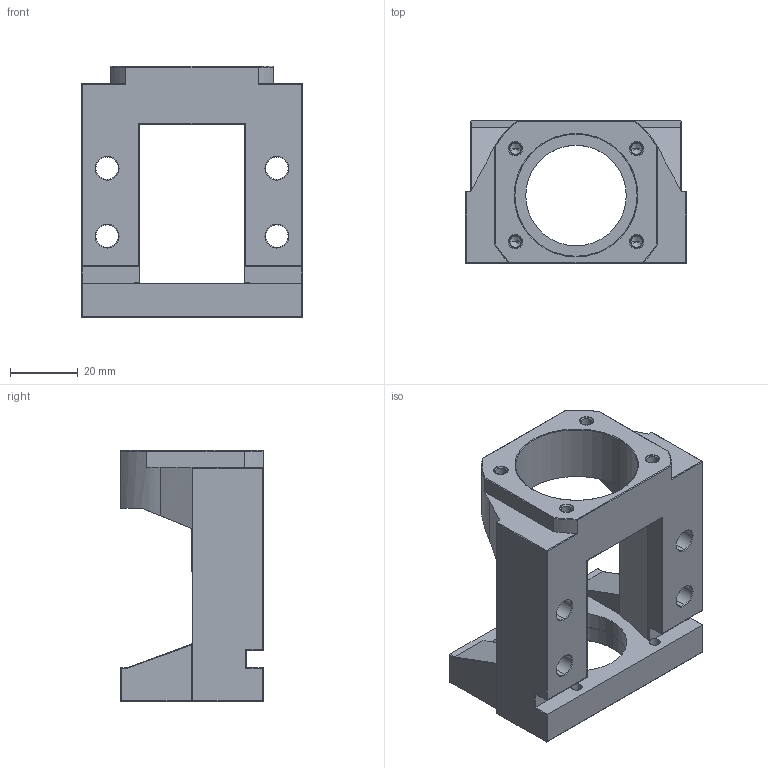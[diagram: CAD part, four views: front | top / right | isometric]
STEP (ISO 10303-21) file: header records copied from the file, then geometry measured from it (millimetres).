
FILE_DESCRIPTION (( 'STEP AP203' ), '1' );
FILE_NAME ('MBL10-B.STEP', '2017-12-28T06:04:41', ( '' ), ( '' ), 'SwSTEP 2.0', 'SolidWorks 2017', '' );
FILE_SCHEMA (( 'CONFIG_CONTROL_DESIGN' ));
Length unit declared in the file: millimetre
Products named in the file (1): MBL10-B
Bounding box: 65 x 42 x 74 mm (x, y, z)
Volume: 69747.7 mm3; surface area: 23204.7 mm2
Topology: 1 solids, 1 shells, 202 faces, 495 edges, 280 vertices
Faces by surface type: cylinder 89, plane 39, torus 34, cone 26, sphere 12, bspline 2
Entity records: 5926 total; most frequent: CARTESIAN_POINT 1128, DIRECTION 1065, ORIENTED_EDGE 950, EDGE_CURVE 475, AXIS2_PLACEMENT_3D 427, VERTEX_POINT 280, EDGE_LOOP 229, CIRCLE 226
